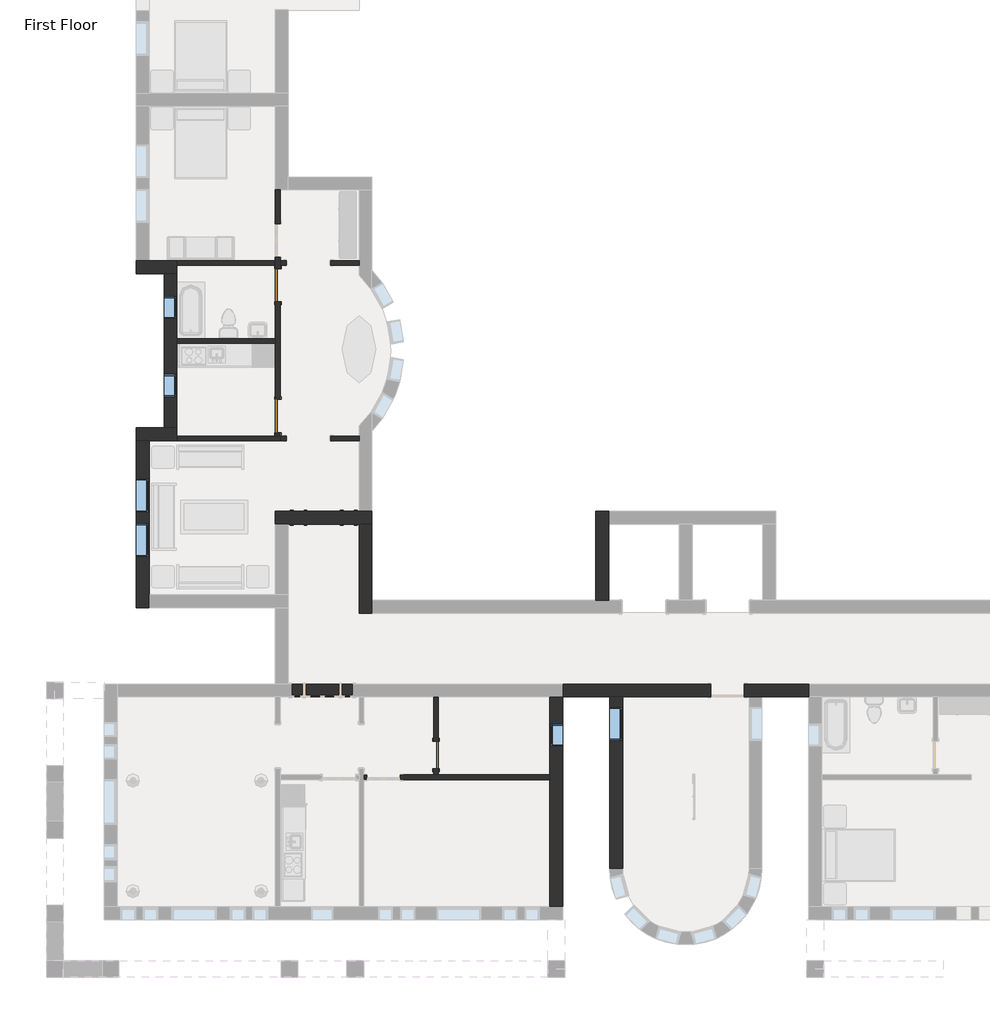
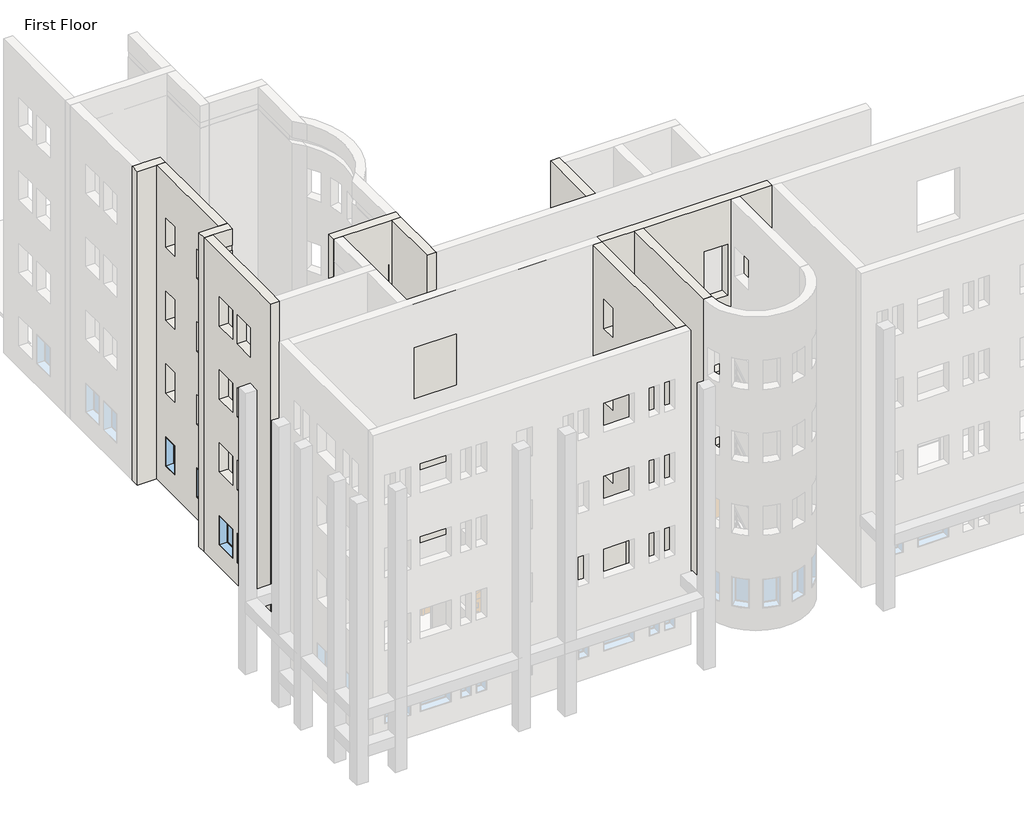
# One storey, part 4 of 24: 19 walls, 6 windows, 4 doors.
"""IFC4 building model written with IfcOpenShell, lengths in millimetres."""

from ifc_helpers import new_model, si_unit, frame, origin, origin_with_axes, place, context, project, spatial, polyline, outline, extrude, faceted_brep, transform, mapped, element, save
from components import door_4d6c7550, door_a1797ceb, door_a3eb833a, door_ffdb1193, window_60baf983, window_ed80354a, window_0e2fc6ce

model = new_model("IFC4")

# Units and contexts
model_context = context("Model", 3, world=origin())
ifc_project = project(units=[si_unit("LENGTHUNIT", "METRE", prefix="MILLI")], contexts=[model_context])

# Site, building, storey
site = spatial("IfcSite", under=ifc_project)
building = spatial("IfcBuilding", under=site)
storey = spatial("IfcBuildingStorey", under=building, Name="First Floor", Elevation=0.0)

# Doors
placement = place(None, origin())
door_shape = door_4d6c7550(model_context)
element("IfcDoor", 1, ObjectType="Single-Flush : 30\" x 84\"", at=placement, inside=storey, context=model_context, shape_type="MappedRepresentation", body=[
    mapped(door_shape, transform((-21764.5964563, -29722.2808133, 0.0), x_axis=(0.0, -1.0, 0.0), y_axis=(1.0, 0.0, 0.0), z_axis=(0.0, 0.0, 1.0))),
])
door_2_shape = door_a1797ceb(model_context)
element("IfcDoor", 2, ObjectType="Single-Flush : 36\" x 84\"", at=placement, inside=storey, context=model_context, shape_type="MappedRepresentation", body=[
    mapped(door_2_shape, transform((-26096.8839563, -16873.0558133, 0.0), x_axis=(0.0, 1.0, 0.0), y_axis=(-1.0, 0.0, 0.0), z_axis=(0.0, 0.0, 1.0))),
])
door_3_shape = door_a3eb833a(model_context)
element("IfcDoor", 3, ObjectType="Single-Flush : 36\" x 84\"", at=placement, inside=storey, context=model_context, shape_type="MappedRepresentation", body=[
    mapped(door_3_shape, transform((-26096.8839563, -20451.2808133, 0.0), x_axis=(0.0, -1.0, 0.0), y_axis=(1.0, 0.0, 0.0), z_axis=(0.0, 0.0, 1.0))),
])
door_4_shape = door_ffdb1193(model_context)
element("IfcDoor", 4, ObjectType="Single-Raised Panel with Sidelights : 36\" x 84\"", at=placement, inside=storey, context=model_context, shape_type="MappedRepresentation", body=[
    mapped(door_4_shape, transform((-24841.1714563, -23234.1683133, 0.0), x_axis=(1.0, 0.0, 0.0), y_axis=(0.0, 1.0, 0.0), z_axis=(0.0, 0.0, 1.0))),
])

# Walls
element("IfcWall", 5, ObjectType="Exterior - Brick on Mtl. Stud", at=placement, inside=storey, context=model_context, shape_type="Brep", body=[
    faceted_brep([(-17044.9589563, -25496.3558133, 0.0), (-17044.9589563, -23410.3808133, 0.0), (-17044.9589563, -23057.9558133, 0.0), (-17044.9589563, -23057.9558133, 13106.4), (-17044.9589563, -23410.3808133, 13106.4), (-17044.9589563, -25496.3558133, 13106.4), (-17397.3839563, -25496.3558133, 0.0), (-17397.3839563, -25496.3558133, 13106.4), (-17397.3839563, -23057.9558133, 13106.4), (-17397.3839563, -23057.9558133, 0.0)], [[[0, 1, 2, 3, 4, 5]], [[6, 7, 8, 9]], [[2, 1, 0, 6, 9]], [[5, 4, 3, 8, 7]], [[3, 2, 9, 8]], [[0, 5, 7, 6]]]),
])
element("IfcWall", 6, ObjectType="Exterior - Brick on Mtl. Stud", at=placement, inside=storey, context=model_context, shape_type="SweptSolid", body=[
    extrude(outline(polyline([(-28134.7808133, 0.0), (-32835.3683133, 0.0), (-32835.3683133, 13106.4), (-28134.7808133, 13106.4), (-28134.7808133, 0.0)]), holes=[polyline([(-28415.7683133, 2133.6), (-29330.1683133, 2133.6), (-29330.1683133, 914.4), (-28415.7683133, 914.4), (-28415.7683133, 2133.6)]), polyline([(-28415.7683133, 11277.6), (-29330.1683133, 11277.6), (-29330.1683133, 10058.4), (-28415.7683133, 10058.4), (-28415.7683133, 11277.6)]), polyline([(-28415.7683133, 5181.6), (-29330.1683133, 5181.6), (-29330.1683133, 3962.4), (-28415.7683133, 3962.4), (-28415.7683133, 5181.6)]), polyline([(-28415.7683133, 8229.6), (-29330.1683133, 8229.6), (-29330.1683133, 7010.4), (-28415.7683133, 7010.4), (-28415.7683133, 8229.6)])]), frame((-17016.3839563, 0.0, 0.0), z_axis=(1.0, 0.0, 0.0), x_axis=(0.0, 1.0, 0.0)), (0.0, 0.0, 1.0), 352.425),
])
element("IfcWall", 7, ObjectType="Exterior - Brick on Mtl. Stud", at=placement, inside=storey, context=model_context, shape_type="Brep", body=[
    faceted_brep([(-26160.3839563, -23410.3808133, 0.0), (-25807.9589563, -23410.3808133, 0.0), (-23874.3839563, -23410.3808133, 0.0), (-23521.9589563, -23410.3808133, 0.0), (-23521.9589563, -23410.3808133, 13106.4), (-23874.3839563, -23410.3808133, 13106.4), (-25807.9589563, -23410.3808133, 13106.4), (-26160.3839563, -23410.3808133, 13106.4), (-26160.3839563, -23410.3808133, 12420.6), (-26160.3839563, -23410.3808133, 12192.0), (-26160.3839563, -23057.9558133, 0.0), (-26160.3839563, -23057.9558133, 13106.4), (-23874.3839563, -23057.9558133, 13106.4), (-23521.9589563, -23057.9558133, 13106.4), (-23521.9589563, -23057.9558133, 0.0), (-23874.3839563, -23057.9558133, 0.0)], [[[0, 1, 2, 3, 4, 5, 6, 7, 8, 9]], [[10, 11, 12, 13, 14, 15]], [[3, 2, 1, 0, 10, 15, 14]], [[7, 6, 5, 4, 13, 12, 11]], [[4, 3, 14, 13]], [[0, 9, 8, 7, 11, 10]]]),
])
element("IfcWall", 8, ObjectType="Exterior - Brick on Mtl. Stud", at=placement, inside=storey, context=model_context, shape_type="Brep", body=[
    faceted_brep([(-23521.9589563, -25848.7808133, 0.0), (-23521.9589563, -25496.3558133, 0.0), (-23521.9589563, -23410.3808133, 0.0), (-23521.9589563, -23410.3808133, 13106.4), (-23521.9589563, -25496.3558133, 13106.4), (-23521.9589563, -25848.7808133, 13106.4), (-23874.3839563, -25848.7808133, 0.0), (-23874.3839563, -25848.7808133, 13106.4), (-23874.3839563, -23410.3808133, 13106.4), (-23874.3839563, -23410.3808133, 0.0)], [[[0, 1, 2, 3, 4, 5]], [[6, 7, 8, 9]], [[2, 1, 0, 6, 9]], [[5, 4, 3, 8, 7]], [[0, 5, 7, 6]], [[3, 2, 9, 8]]]),
])
element("IfcWall", 9, ObjectType="Exterior - Brick on Mtl. Stud", at=placement, inside=storey, context=model_context, shape_type="Brep", body=[
    faceted_brep([(-11571.2589563, -27782.3558133, 0.0), (-13334.9714563, -27782.3558133, 0.0), (-13334.9714563, -27782.3558133, 2133.6), (-14249.3714563, -27782.3558133, 2133.6), (-14249.3714563, -27782.3558133, 0.0), (-25807.9589563, -27782.3558133, 0.0), (-25807.9589563, -27782.3558133, 13106.4), (-11571.2589563, -27782.3558133, 13106.4), (-14249.3714563, -27782.3558133, 6096.0), (-13334.9714563, -27782.3558133, 6096.0), (-13334.9714563, -27782.3558133, 8229.6), (-14249.3714563, -27782.3558133, 8229.6), (-14249.3714563, -27782.3558133, 3048.0), (-13334.9714563, -27782.3558133, 3048.0), (-13334.9714563, -27782.3558133, 5181.6), (-14249.3714563, -27782.3558133, 5181.6), (-14249.3714563, -27782.3558133, 9144.0), (-13334.9714563, -27782.3558133, 9144.0), (-13334.9714563, -27782.3558133, 11277.6), (-14249.3714563, -27782.3558133, 11277.6), (-13334.9714563, -28134.7808133, 2133.6), (-13334.9714563, -28134.7808133, 0.0), (-13206.3839563, -28134.7808133, 0.0), (-12853.9589563, -28134.7808133, 0.0), (-11571.2589563, -28134.7808133, 0.0), (-11571.2589563, -28134.7808133, 13106.4), (-12853.9589563, -28134.7808133, 13106.4), (-13206.3839563, -28134.7808133, 13106.4), (-16663.9589563, -28134.7808133, 13106.4), (-17016.3839563, -28134.7808133, 13106.4), (-18300.6714563, -28134.7808133, 13106.4), (-18653.0964563, -28134.7808133, 13106.4), (-25807.9589563, -28134.7808133, 13106.4), (-25807.9589563, -28134.7808133, 0.0), (-23874.3839563, -28134.7808133, 0.0), (-23747.3839563, -28134.7808133, 0.0), (-21828.0964563, -28134.7808133, 0.0), (-21701.0964563, -28134.7808133, 0.0), (-18653.0964563, -28134.7808133, 0.0), (-18300.6714563, -28134.7808133, 0.0), (-17016.3839563, -28134.7808133, 0.0), (-16663.9589563, -28134.7808133, 0.0), (-14249.3714563, -28134.7808133, 0.0), (-14249.3714563, -28134.7808133, 2133.6), (-14249.3714563, -28134.7808133, 6096.0), (-14249.3714563, -28134.7808133, 8229.6), (-13334.9714563, -28134.7808133, 8229.6), (-13334.9714563, -28134.7808133, 6096.0), (-14249.3714563, -28134.7808133, 3048.0), (-14249.3714563, -28134.7808133, 5181.6), (-13334.9714563, -28134.7808133, 5181.6), (-13334.9714563, -28134.7808133, 3048.0), (-14249.3714563, -28134.7808133, 9144.0), (-14249.3714563, -28134.7808133, 11277.6), (-13334.9714563, -28134.7808133, 11277.6), (-13334.9714563, -28134.7808133, 9144.0)], [[[0, 1, 2, 3, 4, 5, 6, 7], [8, 9, 10, 11], [12, 13, 14, 15], [16, 17, 18, 19]], [[20, 21, 22, 23, 24, 25, 26, 27, 28, 29, 30, 31, 32, 33, 34, 35, 36, 37, 38, 39, 40, 41, 42, 43], [44, 45, 46, 47], [48, 49, 50, 51], [52, 53, 54, 55]], [[24, 23, 22, 21, 1, 0]], [[42, 41, 40, 39, 38, 37, 36, 35, 34, 33, 5, 4]], [[7, 6, 32, 31, 30, 29, 28, 27, 26, 25]], [[0, 7, 25, 24]], [[6, 5, 33, 32]], [[2, 1, 21, 20]], [[3, 2, 20, 43]], [[4, 3, 43, 42]], [[9, 8, 44, 47]], [[10, 9, 47, 46]], [[11, 10, 46, 45]], [[8, 11, 45, 44]], [[13, 12, 48, 51]], [[14, 13, 51, 50]], [[15, 14, 50, 49]], [[12, 15, 49, 48]], [[17, 16, 52, 55]], [[18, 17, 55, 54]], [[19, 18, 54, 53]], [[16, 19, 53, 52]]]),
])
element("IfcWall", 10, ObjectType="Exterior - Brick on Mtl. Stud", at=placement, inside=storey, context=model_context, shape_type="Brep", body=[
    faceted_brep([(-18653.0964563, -28134.7808133, 0.0), (-18653.0964563, -30268.3808133, 0.0), (-18653.0964563, -30395.3808133, 0.0), (-18653.0964563, -33878.3558133, 0.0), (-18653.0964563, -33878.3558133, 13106.4), (-18653.0964563, -28134.7808133, 13106.4), (-18653.0964563, -28872.9683133, 2133.6), (-18653.0964563, -29482.5683133, 2133.6), (-18653.0964563, -29482.5683133, 914.4), (-18653.0964563, -28872.9683133, 914.4), (-18653.0964563, -28872.9683133, 11277.6), (-18653.0964563, -29482.5683133, 11277.6), (-18653.0964563, -29482.5683133, 10058.4), (-18653.0964563, -28872.9683133, 10058.4), (-18653.0964563, -28872.9683133, 5181.6), (-18653.0964563, -29482.5683133, 5181.6), (-18653.0964563, -29482.5683133, 3962.4), (-18653.0964563, -28872.9683133, 3962.4), (-18653.0964563, -28872.9683133, 8229.6), (-18653.0964563, -29482.5683133, 8229.6), (-18653.0964563, -29482.5683133, 7010.4), (-18653.0964563, -28872.9683133, 7010.4), (-18300.6714563, -28134.7808133, 0.0), (-18300.6714563, -28134.7808133, 13106.4), (-18300.6714563, -33878.3558133, 13106.4), (-18300.6714563, -33878.3558133, 0.0), (-18300.6714563, -28872.9683133, 2133.6), (-18300.6714563, -28872.9683133, 914.4), (-18300.6714563, -29482.5683133, 914.4), (-18300.6714563, -29482.5683133, 2133.6), (-18300.6714563, -28872.9683133, 11277.6), (-18300.6714563, -28872.9683133, 10058.4), (-18300.6714563, -29482.5683133, 10058.4), (-18300.6714563, -29482.5683133, 11277.6), (-18300.6714563, -28872.9683133, 5181.6), (-18300.6714563, -28872.9683133, 3962.4), (-18300.6714563, -29482.5683133, 3962.4), (-18300.6714563, -29482.5683133, 5181.6), (-18300.6714563, -28872.9683133, 8229.6), (-18300.6714563, -28872.9683133, 7010.4), (-18300.6714563, -29482.5683133, 7010.4), (-18300.6714563, -29482.5683133, 8229.6), (-18487.9964563, -28134.7808133, 0.0), (-18487.9964563, -33878.3558133, 0.0)], [[[0, 1, 2, 3, 4, 5], [6, 7, 8, 9], [10, 11, 12, 13], [14, 15, 16, 17], [18, 19, 20, 21]], [[22, 23, 24, 25], [26, 27, 28, 29], [30, 31, 32, 33], [34, 35, 36, 37], [38, 39, 40, 41]], [[5, 4, 24, 23]], [[0, 5, 23, 22, 42]], [[4, 3, 43, 25, 24]], [[42, 22, 25, 43]], [[3, 2, 1, 0, 42, 43]], [[27, 26, 6, 9]], [[28, 27, 9, 8]], [[29, 28, 8, 7]], [[26, 29, 7, 6]], [[31, 30, 10, 13]], [[32, 31, 13, 12]], [[33, 32, 12, 11]], [[30, 33, 11, 10]], [[35, 34, 14, 17]], [[36, 35, 17, 16]], [[37, 36, 16, 15]], [[34, 37, 15, 14]], [[39, 38, 18, 21]], [[40, 39, 21, 20]], [[41, 40, 20, 19]], [[38, 41, 19, 18]]]),
])
element("IfcWall", 11, ObjectType="Exterior - Brick on Mtl. Stud", at=placement, inside=storey, context=model_context, shape_type="Brep", body=[
    faceted_brep([(-23874.3839563, -23410.3808133, 13106.4), (-25807.9589563, -23410.3808133, 13106.4), (-25807.9589563, -23410.3808133, 0.0), (-25679.3714563, -23410.3808133, 0.0), (-25679.3714563, -23410.3808133, 2133.6), (-24002.9714563, -23410.3808133, 2133.6), (-24002.9714563, -23410.3808133, 0.0), (-23874.3839563, -23410.3808133, 0.0), (-24002.9714563, -23410.3808133, 9144.0), (-25679.3714563, -23410.3808133, 9144.0), (-25679.3714563, -23410.3808133, 11277.6), (-24002.9714563, -23410.3808133, 11277.6), (-24002.9714563, -23410.3808133, 3048.0), (-25679.3714563, -23410.3808133, 3048.0), (-25679.3714563, -23410.3808133, 5181.6), (-24002.9714563, -23410.3808133, 5181.6), (-24002.9714563, -23410.3808133, 6096.0), (-25679.3714563, -23410.3808133, 6096.0), (-25679.3714563, -23410.3808133, 8229.6), (-24002.9714563, -23410.3808133, 8229.6), (-25807.9589563, -23057.9558133, 13106.4), (-23874.3839563, -23057.9558133, 13106.4), (-23874.3839563, -23057.9558133, 12420.6), (-25807.9589563, -23057.9558133, 12420.6), (-24002.9714563, -23057.9558133, 0.0), (-24002.9714563, -23057.9558133, 2133.6), (-25679.3714563, -23057.9558133, 2133.6), (-25679.3714563, -23057.9558133, 0.0), (-25807.9589563, -23057.9558133, 0.0), (-25807.9589563, -23057.9558133, 12192.0), (-23874.3839563, -23057.9558133, 12192.0), (-23874.3839563, -23057.9558133, 0.0), (-25679.3714563, -23057.9558133, 9144.0), (-24002.9714563, -23057.9558133, 9144.0), (-24002.9714563, -23057.9558133, 11277.6), (-25679.3714563, -23057.9558133, 11277.6), (-25679.3714563, -23057.9558133, 3048.0), (-24002.9714563, -23057.9558133, 3048.0), (-24002.9714563, -23057.9558133, 5181.6), (-25679.3714563, -23057.9558133, 5181.6), (-25679.3714563, -23057.9558133, 6096.0), (-24002.9714563, -23057.9558133, 6096.0), (-24002.9714563, -23057.9558133, 8229.6), (-25679.3714563, -23057.9558133, 8229.6), (-23874.3839563, -23070.6558133, 12192.0), (-23874.3839563, -23070.6558133, 12420.6), (-25807.9589563, -23070.6558133, 12420.6), (-25807.9589563, -23070.6558133, 12192.0)], [[[0, 1, 2, 3, 4, 5, 6, 7], [8, 9, 10, 11], [12, 13, 14, 15], [16, 17, 18, 19]], [[20, 21, 22, 23]], [[24, 25, 26, 27, 28, 29, 30, 31], [32, 33, 34, 35], [36, 37, 38, 39], [40, 41, 42, 43]], [[31, 7, 6, 24]], [[2, 28, 27, 3]], [[1, 0, 21, 20]], [[0, 7, 31, 30, 44, 45, 22, 21]], [[2, 1, 20, 23, 46, 47, 29, 28]], [[25, 24, 6, 5]], [[26, 25, 5, 4]], [[27, 26, 4, 3]], [[33, 32, 9, 8]], [[34, 33, 8, 11]], [[35, 34, 11, 10]], [[32, 35, 10, 9]], [[37, 36, 13, 12]], [[38, 37, 12, 15]], [[39, 38, 15, 14]], [[36, 39, 14, 13]], [[41, 40, 17, 16]], [[42, 41, 16, 19]], [[43, 42, 19, 18]], [[40, 43, 18, 17]], [[47, 44, 30, 29]], [[45, 46, 23, 22]], [[44, 47, 46, 45]]]),
])
element("IfcWall", 12, ObjectType="Exterior - Brick on Mtl. Stud", at=placement, inside=storey, context=model_context, shape_type="Brep", body=[
    faceted_brep([(-29970.3839563, -16552.3808133, 0.0), (-29208.3839563, -16552.3808133, 0.0), (-28855.9589563, -16552.3808133, 0.0), (-28855.9589563, -16552.3808133, 12192.0), (-28868.6589563, -16552.3808133, 12192.0), (-28868.6589563, -16552.3808133, 12420.6), (-28855.9589563, -16552.3808133, 12420.6), (-28855.9589563, -16552.3808133, 13106.4), (-29208.3839563, -16552.3808133, 13106.4), (-29970.3839563, -16552.3808133, 13106.4), (-28855.9589563, -16199.9558133, 0.0), (-29617.9589563, -16199.9558133, 0.0), (-29970.3839563, -16199.9558133, 0.0), (-29970.3839563, -16199.9558133, 13106.4), (-29617.9589563, -16199.9558133, 13106.4), (-28855.9589563, -16199.9558133, 13106.4), (-28855.9589563, -16199.9558133, 12420.6), (-29617.9589563, -16199.9558133, 12420.6), (-29630.6589563, -16199.9558133, 12420.6), (-29630.6589563, -16199.9558133, 12192.0), (-29617.9589563, -16199.9558133, 12192.0), (-28855.9589563, -16199.9558133, 12192.0), (-28855.9589563, -16199.9558133, 9144.0), (-28855.9589563, -16199.9558133, 6096.0), (-28855.9589563, -16199.9558133, 3048.0), (-28855.9589563, -16326.9558133, 0.0), (-28855.9589563, -16326.9558133, 12192.0), (-29630.6589563, -16212.6558133, 12192.0), (-28868.6589563, -16212.6558133, 12192.0), (-28868.6589563, -16212.6558133, 12420.6), (-29630.6589563, -16212.6558133, 12420.6)], [[[0, 1, 2, 3, 4, 5, 6, 7, 8, 9]], [[10, 11, 12, 13, 14, 15, 16, 17, 18, 19, 20, 21, 22, 23, 24]], [[2, 1, 0, 12, 11, 10, 25]], [[9, 8, 7, 15, 14, 13]], [[0, 9, 13, 12]], [[2, 25, 10, 24, 23, 22, 21, 26, 3]], [[15, 7, 6, 16]], [[27, 28, 4, 3, 26, 21, 20, 19]], [[29, 30, 18, 17, 16, 6, 5]], [[30, 27, 19, 18]], [[28, 27, 30, 29]], [[28, 29, 5, 4]]]),
])
element("IfcWall", 13, ObjectType="Exterior - Brick on Mtl. Stud", at=placement, inside=storey, context=model_context, shape_type="Brep", body=[
    faceted_brep([(-29208.3839563, -16552.3808133, 0.0), (-29208.3839563, -20771.9558133, 0.0), (-29208.3839563, -20771.9558133, 13106.4), (-29208.3839563, -16552.3808133, 13106.4), (-29208.3839563, -19311.4558133, 914.4), (-29208.3839563, -19311.4558133, 2133.6), (-29208.3839563, -19921.0558133, 2133.6), (-29208.3839563, -19921.0558133, 914.4), (-29208.3839563, -17177.8558133, 914.4), (-29208.3839563, -17177.8558133, 2133.6), (-29208.3839563, -17787.4558133, 2133.6), (-29208.3839563, -17787.4558133, 914.4), (-29208.3839563, -19311.4558133, 10058.4), (-29208.3839563, -19311.4558133, 11277.6), (-29208.3839563, -19921.0558133, 11277.6), (-29208.3839563, -19921.0558133, 10058.4), (-29208.3839563, -17177.8558133, 10058.4), (-29208.3839563, -17177.8558133, 11277.6), (-29208.3839563, -17787.4558133, 11277.6), (-29208.3839563, -17787.4558133, 10058.4), (-29208.3839563, -19311.4558133, 3962.4), (-29208.3839563, -19311.4558133, 5181.6), (-29208.3839563, -19921.0558133, 5181.6), (-29208.3839563, -19921.0558133, 3962.4), (-29208.3839563, -17177.8558133, 3962.4), (-29208.3839563, -17177.8558133, 5181.6), (-29208.3839563, -17787.4558133, 5181.6), (-29208.3839563, -17787.4558133, 3962.4), (-29208.3839563, -19311.4558133, 7010.4), (-29208.3839563, -19311.4558133, 8229.6), (-29208.3839563, -19921.0558133, 8229.6), (-29208.3839563, -19921.0558133, 7010.4), (-29208.3839563, -17177.8558133, 7010.4), (-29208.3839563, -17177.8558133, 8229.6), (-29208.3839563, -17787.4558133, 8229.6), (-29208.3839563, -17787.4558133, 7010.4), (-28855.9589563, -20771.9558133, 0.0), (-28855.9589563, -18460.5558133, 0.0), (-28855.9589563, -18333.5558133, 0.0), (-28855.9589563, -16552.3808133, 0.0), (-28855.9589563, -16552.3808133, 12192.0), (-28855.9589563, -18333.5558133, 12192.0), (-28855.9589563, -18460.5558133, 12192.0), (-28855.9589563, -20771.9558133, 12192.0), (-28855.9589563, -19311.4558133, 2133.6), (-28855.9589563, -19311.4558133, 914.4), (-28855.9589563, -19921.0558133, 914.4), (-28855.9589563, -19921.0558133, 2133.6), (-28855.9589563, -17177.8558133, 2133.6), (-28855.9589563, -17177.8558133, 914.4), (-28855.9589563, -17787.4558133, 914.4), (-28855.9589563, -17787.4558133, 2133.6), (-28855.9589563, -19311.4558133, 11277.6), (-28855.9589563, -19311.4558133, 10058.4), (-28855.9589563, -19921.0558133, 10058.4), (-28855.9589563, -19921.0558133, 11277.6), (-28855.9589563, -17177.8558133, 11277.6), (-28855.9589563, -17177.8558133, 10058.4), (-28855.9589563, -17787.4558133, 10058.4), (-28855.9589563, -17787.4558133, 11277.6), (-28855.9589563, -19311.4558133, 5181.6), (-28855.9589563, -19311.4558133, 3962.4), (-28855.9589563, -19921.0558133, 3962.4), (-28855.9589563, -19921.0558133, 5181.6), (-28855.9589563, -17177.8558133, 5181.6), (-28855.9589563, -17177.8558133, 3962.4), (-28855.9589563, -17787.4558133, 3962.4), (-28855.9589563, -17787.4558133, 5181.6), (-28855.9589563, -19311.4558133, 8229.6), (-28855.9589563, -19311.4558133, 7010.4), (-28855.9589563, -19921.0558133, 7010.4), (-28855.9589563, -19921.0558133, 8229.6), (-28855.9589563, -17177.8558133, 8229.6), (-28855.9589563, -17177.8558133, 7010.4), (-28855.9589563, -17787.4558133, 7010.4), (-28855.9589563, -17787.4558133, 8229.6), (-28855.9589563, -16552.3808133, 13106.4), (-28855.9589563, -20771.9558133, 13106.4), (-28855.9589563, -20771.9558133, 12420.6), (-28855.9589563, -16552.3808133, 12420.6), (-28868.6589563, -16552.3808133, 12420.6), (-28868.6589563, -16552.3808133, 12192.0), (-28868.6589563, -20771.9558133, 12192.0), (-28868.6589563, -20771.9558133, 12420.6)], [[[0, 1, 2, 3], [4, 5, 6, 7], [8, 9, 10, 11], [12, 13, 14, 15], [16, 17, 18, 19], [20, 21, 22, 23], [24, 25, 26, 27], [28, 29, 30, 31], [32, 33, 34, 35]], [[36, 37, 38, 39, 40, 41, 42, 43], [44, 45, 46, 47], [48, 49, 50, 51], [52, 53, 54, 55], [56, 57, 58, 59], [60, 61, 62, 63], [64, 65, 66, 67], [68, 69, 70, 71], [72, 73, 74, 75]], [[76, 77, 78, 79]], [[1, 0, 39, 38, 37, 36]], [[3, 2, 77, 76]], [[0, 3, 76, 79, 80, 81, 40, 39]], [[2, 1, 36, 43, 82, 83, 78, 77]], [[45, 44, 5, 4]], [[46, 45, 4, 7]], [[47, 46, 7, 6]], [[44, 47, 6, 5]], [[49, 48, 9, 8]], [[50, 49, 8, 11]], [[51, 50, 11, 10]], [[48, 51, 10, 9]], [[53, 52, 13, 12]], [[54, 53, 12, 15]], [[55, 54, 15, 14]], [[52, 55, 14, 13]], [[57, 56, 17, 16]], [[58, 57, 16, 19]], [[59, 58, 19, 18]], [[56, 59, 18, 17]], [[61, 60, 21, 20]], [[62, 61, 20, 23]], [[63, 62, 23, 22]], [[60, 63, 22, 21]], [[65, 64, 25, 24]], [[66, 65, 24, 27]], [[67, 66, 27, 26]], [[64, 67, 26, 25]], [[69, 68, 29, 28]], [[70, 69, 28, 31]], [[71, 70, 31, 30]], [[68, 71, 30, 29]], [[73, 72, 33, 32]], [[74, 73, 32, 35]], [[75, 74, 35, 34]], [[72, 75, 34, 33]], [[81, 82, 43, 42, 41, 40]], [[83, 80, 79, 78]], [[82, 81, 80, 83]]]),
])
element("IfcWall", 14, ObjectType="Exterior - Brick on Mtl. Stud", at=placement, inside=storey, context=model_context, shape_type="Brep", body=[
    faceted_brep([(-28855.9589563, -20771.9558133, 0.0), (-29208.3839563, -20771.9558133, 0.0), (-29970.3839563, -20771.9558133, 0.0), (-29970.3839563, -20771.9558133, 13106.4), (-29208.3839563, -20771.9558133, 13106.4), (-28855.9589563, -20771.9558133, 13106.4), (-28855.9589563, -20771.9558133, 12420.6), (-28868.6589563, -20771.9558133, 12420.6), (-28868.6589563, -20771.9558133, 12192.0), (-28855.9589563, -20771.9558133, 12192.0), (-29970.3839563, -21124.3808133, 0.0), (-29617.9589563, -21124.3808133, 0.0), (-28855.9589563, -21124.3808133, 0.0), (-28855.9589563, -21124.3808133, 3048.0), (-28855.9589563, -21124.3808133, 6096.0), (-28855.9589563, -21124.3808133, 9144.0), (-28855.9589563, -21124.3808133, 12192.0), (-29617.9589563, -21124.3808133, 12192.0), (-29630.6589563, -21124.3808133, 12192.0), (-29630.6589563, -21124.3808133, 12420.6), (-29617.9589563, -21124.3808133, 12420.6), (-28855.9589563, -21124.3808133, 12420.6), (-28855.9589563, -21124.3808133, 13106.4), (-29617.9589563, -21124.3808133, 13106.4), (-29970.3839563, -21124.3808133, 13106.4), (-28855.9589563, -20997.3808133, 0.0), (-28855.9589563, -20997.3808133, 12192.0), (-28868.6589563, -21111.6808133, 12192.0), (-29630.6589563, -21111.6808133, 12192.0), (-29630.6589563, -21111.6808133, 12420.6), (-28868.6589563, -21111.6808133, 12420.6)], [[[0, 1, 2, 3, 4, 5, 6, 7, 8, 9]], [[10, 11, 12, 13, 14, 15, 16, 17, 18, 19, 20, 21, 22, 23, 24]], [[2, 1, 0, 25, 12, 11, 10]], [[5, 4, 3, 24, 23, 22]], [[12, 25, 0, 9, 26, 16, 15, 14, 13]], [[5, 22, 21, 6]], [[3, 2, 10, 24]], [[27, 28, 18, 17, 16, 26, 9, 8]], [[29, 30, 7, 6, 21, 20, 19]], [[30, 27, 8, 7]], [[28, 27, 30, 29]], [[28, 29, 19, 18]]]),
])
element("IfcWall", 15, ObjectType="Exterior - Brick on Mtl. Stud", at=placement, inside=storey, context=model_context, shape_type="Brep", body=[
    faceted_brep([(-29970.3839563, -21124.3808133, 0.0), (-29970.3839563, -25696.3808133, 0.0), (-29970.3839563, -25696.3808133, 13106.4), (-29970.3839563, -21124.3808133, 13106.4), (-29970.3839563, -23386.5683133, 914.4), (-29970.3839563, -23386.5683133, 2133.6), (-29970.3839563, -24300.9683133, 2133.6), (-29970.3839563, -24300.9683133, 914.4), (-29970.3839563, -22167.3683133, 914.4), (-29970.3839563, -22167.3683133, 2133.6), (-29970.3839563, -23081.7683133, 2133.6), (-29970.3839563, -23081.7683133, 914.4), (-29970.3839563, -23386.5683133, 10058.4), (-29970.3839563, -23386.5683133, 11277.6), (-29970.3839563, -24300.9683133, 11277.6), (-29970.3839563, -24300.9683133, 10058.4), (-29970.3839563, -22167.3683133, 10058.4), (-29970.3839563, -22167.3683133, 11277.6), (-29970.3839563, -23081.7683133, 11277.6), (-29970.3839563, -23081.7683133, 10058.4), (-29970.3839563, -23386.5683133, 3962.4), (-29970.3839563, -23386.5683133, 5181.6), (-29970.3839563, -24300.9683133, 5181.6), (-29970.3839563, -24300.9683133, 3962.4), (-29970.3839563, -22167.3683133, 3962.4), (-29970.3839563, -22167.3683133, 5181.6), (-29970.3839563, -23081.7683133, 5181.6), (-29970.3839563, -23081.7683133, 3962.4), (-29970.3839563, -23386.5683133, 7010.4), (-29970.3839563, -23386.5683133, 8229.6), (-29970.3839563, -24300.9683133, 8229.6), (-29970.3839563, -24300.9683133, 7010.4), (-29970.3839563, -22167.3683133, 7010.4), (-29970.3839563, -22167.3683133, 8229.6), (-29970.3839563, -23081.7683133, 8229.6), (-29970.3839563, -23081.7683133, 7010.4), (-29617.9589563, -25696.3808133, 0.0), (-29617.9589563, -25343.9558133, 0.0), (-29617.9589563, -21124.3808133, 0.0), (-29617.9589563, -21124.3808133, 12192.0), (-29617.9589563, -25343.9558133, 12192.0), (-29617.9589563, -25356.6558133, 12192.0), (-29617.9589563, -25356.6558133, 12420.6), (-29617.9589563, -25343.9558133, 12420.6), (-29617.9589563, -21124.3808133, 12420.6), (-29617.9589563, -21124.3808133, 13106.4), (-29617.9589563, -25343.9558133, 13106.4), (-29617.9589563, -25696.3808133, 13106.4), (-29617.9589563, -23386.5683133, 2133.6), (-29617.9589563, -23386.5683133, 914.4), (-29617.9589563, -24300.9683133, 914.4), (-29617.9589563, -24300.9683133, 2133.6), (-29617.9589563, -22167.3683133, 2133.6), (-29617.9589563, -22167.3683133, 914.4), (-29617.9589563, -23081.7683133, 914.4), (-29617.9589563, -23081.7683133, 2133.6), (-29617.9589563, -23386.5683133, 11277.6), (-29617.9589563, -23386.5683133, 10058.4), (-29617.9589563, -24300.9683133, 10058.4), (-29617.9589563, -24300.9683133, 11277.6), (-29617.9589563, -22167.3683133, 11277.6), (-29617.9589563, -22167.3683133, 10058.4), (-29617.9589563, -23081.7683133, 10058.4), (-29617.9589563, -23081.7683133, 11277.6), (-29617.9589563, -23386.5683133, 5181.6), (-29617.9589563, -23386.5683133, 3962.4), (-29617.9589563, -24300.9683133, 3962.4), (-29617.9589563, -24300.9683133, 5181.6), (-29617.9589563, -22167.3683133, 5181.6), (-29617.9589563, -22167.3683133, 3962.4), (-29617.9589563, -23081.7683133, 3962.4), (-29617.9589563, -23081.7683133, 5181.6), (-29617.9589563, -23386.5683133, 8229.6), (-29617.9589563, -23386.5683133, 7010.4), (-29617.9589563, -24300.9683133, 7010.4), (-29617.9589563, -24300.9683133, 8229.6), (-29617.9589563, -22167.3683133, 8229.6), (-29617.9589563, -22167.3683133, 7010.4), (-29617.9589563, -23081.7683133, 7010.4), (-29617.9589563, -23081.7683133, 8229.6), (-29630.6589563, -21124.3808133, 12420.6), (-29630.6589563, -21124.3808133, 12192.0), (-29630.6589563, -25356.6558133, 12192.0), (-29630.6589563, -25356.6558133, 12420.6)], [[[0, 1, 2, 3], [4, 5, 6, 7], [8, 9, 10, 11], [12, 13, 14, 15], [16, 17, 18, 19], [20, 21, 22, 23], [24, 25, 26, 27], [28, 29, 30, 31], [32, 33, 34, 35]], [[36, 37, 38, 39, 40, 41, 42, 43, 44, 45, 46, 47], [48, 49, 50, 51], [52, 53, 54, 55], [56, 57, 58, 59], [60, 61, 62, 63], [64, 65, 66, 67], [68, 69, 70, 71], [72, 73, 74, 75], [76, 77, 78, 79]], [[1, 0, 38, 37, 36]], [[3, 2, 47, 46, 45]], [[2, 1, 36, 47]], [[0, 3, 45, 44, 80, 81, 39, 38]], [[49, 48, 5, 4]], [[50, 49, 4, 7]], [[51, 50, 7, 6]], [[48, 51, 6, 5]], [[53, 52, 9, 8]], [[54, 53, 8, 11]], [[55, 54, 11, 10]], [[52, 55, 10, 9]], [[57, 56, 13, 12]], [[58, 57, 12, 15]], [[59, 58, 15, 14]], [[56, 59, 14, 13]], [[61, 60, 17, 16]], [[62, 61, 16, 19]], [[63, 62, 19, 18]], [[60, 63, 18, 17]], [[65, 64, 21, 20]], [[66, 65, 20, 23]], [[67, 66, 23, 22]], [[64, 67, 22, 21]], [[69, 68, 25, 24]], [[70, 69, 24, 27]], [[71, 70, 27, 26]], [[68, 71, 26, 25]], [[73, 72, 29, 28]], [[74, 73, 28, 31]], [[75, 74, 31, 30]], [[72, 75, 30, 29]], [[77, 76, 33, 32]], [[78, 77, 32, 35]], [[79, 78, 35, 34]], [[76, 79, 34, 33]], [[81, 82, 41, 40, 39]], [[42, 83, 80, 44, 43]], [[83, 82, 81, 80]], [[82, 83, 42, 41]]]),
])
element("IfcWall", 16, ObjectType="Interior - 5\" Partition (2-hr)", at=placement, inside=storey, context=model_context, shape_type="Brep", body=[
    faceted_brep([(-23658.4839563, -30268.3808133, 2133.6), (-23658.4839563, -30268.3808133, 0.0), (-23747.3839563, -30268.3808133, 0.0), (-23747.3839563, -30268.3808133, 3048.0), (-21828.0964563, -30268.3808133, 3048.0), (-21701.0964563, -30268.3808133, 3048.0), (-18653.0964563, -30268.3808133, 3048.0), (-18653.0964563, -30268.3808133, 0.0), (-21701.0964563, -30268.3808133, 0.0), (-21828.0964563, -30268.3808133, 0.0), (-22744.0839563, -30268.3808133, 0.0), (-22744.0839563, -30268.3808133, 2133.6), (-23747.3839563, -30395.3808133, 0.0), (-23658.4839563, -30395.3808133, 0.0), (-23658.4839563, -30395.3808133, 2133.6), (-22744.0839563, -30395.3808133, 2133.6), (-22744.0839563, -30395.3808133, 0.0), (-18653.0964563, -30395.3808133, 0.0), (-18653.0964563, -30395.3808133, 3048.0), (-23747.3839563, -30395.3808133, 3048.0)], [[[0, 1, 2, 3, 4, 5, 6, 7, 8, 9, 10, 11]], [[12, 13, 14, 15, 16, 17, 18, 19]], [[2, 1, 13, 12]], [[10, 9, 8, 7, 17, 16]], [[6, 5, 4, 3, 19, 18]], [[7, 6, 18, 17]], [[3, 2, 12, 19]], [[14, 13, 1, 0]], [[15, 14, 0, 11]], [[16, 15, 11, 10]]]),
])
element("IfcWall", 17, ObjectType="Interior - 5\" Partition (2-hr)", at=placement, inside=storey, context=model_context, shape_type="SweptSolid", body=[
    extrude(outline(polyline([(-30103.2808133, 2133.6), (-30103.2808133, 0.0), (-30268.3808133, 0.0), (-30268.3808133, 3048.0), (-28134.7808133, 3048.0), (-28134.7808133, 0.0), (-29341.2808133, 0.0), (-29341.2808133, 2133.6), (-30103.2808133, 2133.6)])), frame((-21828.0964563, 0.0, 0.0), z_axis=(1.0, 0.0, 0.0), x_axis=(0.0, 1.0, 0.0)), (0.0, 0.0, 1.0), 127.0),
])
element("IfcWall", 18, ObjectType="Interior - 5\" Partition (2-hr)", at=placement, inside=storey, context=model_context, shape_type="Brep", body=[
    faceted_brep([(-28855.9589563, -21124.3808133, 0.0), (-26033.3839563, -21124.3808133, 0.0), (-26033.3839563, -21124.3808133, 3048.0), (-28855.9589563, -21124.3808133, 3048.0), (-28855.9589563, -20997.3808133, 0.0), (-28855.9589563, -20997.3808133, 3048.0), (-26160.3839563, -20997.3808133, 3048.0), (-26033.3839563, -20997.3808133, 3048.0), (-26033.3839563, -20997.3808133, 0.0), (-26160.3839563, -20997.3808133, 0.0)], [[[0, 1, 2, 3]], [[4, 5, 6, 7, 8, 9]], [[1, 0, 4, 9, 8]], [[3, 2, 7, 6, 5]], [[2, 1, 8, 7]], [[0, 3, 5, 4]]]),
])
element("IfcWall", 19, ObjectType="Interior - 5\" Partition (2-hr)", at=placement, inside=storey, context=model_context, shape_type="Brep", body=[
    faceted_brep([(-26160.3839563, -16111.0558133, 2133.6), (-26160.3839563, -16111.0558133, 0.0), (-26160.3839563, -16199.9558133, 0.0), (-26160.3839563, -16326.9558133, 0.0), (-26160.3839563, -16415.8558133, 0.0), (-26160.3839563, -16415.8558133, 2133.6), (-26160.3839563, -17330.2558133, 2133.6), (-26160.3839563, -17330.2558133, 0.0), (-26160.3839563, -18333.5558133, 0.0), (-26160.3839563, -18460.5558133, 0.0), (-26160.3839563, -19994.0808133, 0.0), (-26160.3839563, -19994.0808133, 2133.6), (-26160.3839563, -20908.4808133, 2133.6), (-26160.3839563, -20908.4808133, 0.0), (-26160.3839563, -20997.3808133, 0.0), (-26160.3839563, -20997.3808133, 3048.0), (-26160.3839563, -18460.5558133, 3048.0), (-26160.3839563, -18333.5558133, 3048.0), (-26160.3839563, -16326.9558133, 3048.0), (-26160.3839563, -16199.9558133, 3048.0), (-26160.3839563, -14266.3808133, 3048.0), (-26160.3839563, -14266.3808133, 0.0), (-26160.3839563, -15196.6558133, 0.0), (-26160.3839563, -15196.6558133, 2133.6), (-26033.3839563, -16415.8558133, 0.0), (-26033.3839563, -16326.9558133, 0.0), (-26033.3839563, -16199.9558133, 0.0), (-26033.3839563, -16111.0558133, 0.0), (-26033.3839563, -16111.0558133, 2133.6), (-26033.3839563, -15196.6558133, 2133.6), (-26033.3839563, -15196.6558133, 0.0), (-26033.3839563, -14266.3808133, 0.0), (-26033.3839563, -14266.3808133, 3048.0), (-26033.3839563, -16199.9558133, 3048.0), (-26033.3839563, -16326.9558133, 3048.0), (-26033.3839563, -20997.3808133, 3048.0), (-26033.3839563, -20997.3808133, 0.0), (-26033.3839563, -20908.4808133, 0.0), (-26033.3839563, -20908.4808133, 2133.6), (-26033.3839563, -19994.0808133, 2133.6), (-26033.3839563, -19994.0808133, 0.0), (-26033.3839563, -17330.2558133, 0.0), (-26033.3839563, -17330.2558133, 2133.6), (-26033.3839563, -16415.8558133, 2133.6)], [[[0, 1, 2, 3, 4, 5, 6, 7, 8, 9, 10, 11, 12, 13, 14, 15, 16, 17, 18, 19, 20, 21, 22, 23]], [[24, 25, 26, 27, 28, 29, 30, 31, 32, 33, 34, 35, 36, 37, 38, 39, 40, 41, 42, 43]], [[14, 13, 37, 36]], [[4, 3, 2, 1, 27, 26, 25, 24]], [[41, 40, 10, 9, 8, 7]], [[22, 21, 31, 30]], [[20, 19, 18, 17, 16, 15, 35, 34, 33, 32]], [[21, 20, 32, 31]], [[15, 14, 36, 35]], [[38, 37, 13, 12]], [[39, 38, 12, 11]], [[40, 39, 11, 10]], [[5, 4, 24, 43]], [[6, 5, 43, 42]], [[7, 6, 42, 41]], [[28, 27, 1, 0]], [[29, 28, 0, 23]], [[30, 29, 23, 22]]]),
])
element("IfcWall", 20, ObjectType="Interior - 5\" Partition (2-hr)", at=placement, inside=storey, context=model_context, shape_type="SweptSolid", body=[
    extrude(outline(polyline([(-26160.3839563, -16326.9558133), (-28855.9589563, -16326.9558133), (-28855.9589563, -16199.9558133), (-26160.3839563, -16199.9558133), (-26160.3839563, -16326.9558133)])), origin_with_axes(), (0.0, 0.0, 1.0), 3048.0),
])
element("IfcWall", 21, ObjectType="Interior - 5\" Partition (2-hr)", at=placement, inside=storey, context=model_context, shape_type="SweptSolid", body=[
    extrude(outline(polyline([(-28855.9589563, -18333.5558133), (-26160.3839563, -18333.5558133), (-26160.3839563, -18460.5558133), (-28855.9589563, -18460.5558133), (-28855.9589563, -18333.5558133)])), origin_with_axes(), (0.0, 0.0, 1.0), 3048.0),
])
element("IfcWall", 22, ObjectType="Interior - 5\" Partition (2-hr)", at=placement, inside=storey, context=model_context, shape_type="SweptSolid", body=[
    extrude(outline(polyline([(2133.6, -24649.0839563), (0.0, -24649.0839563), (0.0, -23874.3839563), (3048.0, -23874.3839563), (3048.0, -26033.3839563), (0.0, -26033.3839563), (0.0, -25868.2839563), (2133.6, -25868.2839563), (2133.6, -24649.0839563)])), frame((0.0, -16326.9558133, 0.0), z_axis=(0.0, 1.0, 0.0), x_axis=(0.0, 0.0, 1.0)), (0.0, 0.0, 1.0), 127.0),
])
element("IfcWall", 23, ObjectType="Interior - 5\" Partition (2-hr)", at=placement, inside=storey, context=model_context, shape_type="SweptSolid", body=[
    extrude(outline(polyline([(0.0, -26033.3839563), (0.0, -25868.2839563), (2133.6, -25868.2839563), (2133.6, -24649.0839563), (0.0, -24649.0839563), (0.0, -23874.3839563), (3048.0, -23874.3839563), (3048.0, -26033.3839563), (0.0, -26033.3839563)])), frame((0.0, -21124.3808133, 0.0), z_axis=(0.0, 1.0, 0.0), x_axis=(0.0, 0.0, 1.0)), (0.0, 0.0, 1.0), 127.0),
])

# Windows
window_shape = window_60baf983(model_context)
element("IfcWindow", 24, ObjectType="Fixed : 24\" x 48\"", at=placement, inside=storey, context=model_context, shape_type="MappedRepresentation", body=[
    mapped(window_shape, transform((-18476.8839563, -29139.6683133, 0.0), x_axis=(0.0, 1.0, 0.0), y_axis=(-1.0, 0.0, 0.0), z_axis=(0.0, 0.0, 1.0))),
])
window_2_shape = window_ed80354a(model_context)
element("IfcWindow", 25, ObjectType="Fixed : 24\" x 48\"", at=placement, inside=storey, context=model_context, shape_type="MappedRepresentation", body=[
    mapped(window_2_shape, transform((-29032.1714563, -19578.1558133, 0.0), x_axis=(0.0, 1.0, 0.0), y_axis=(-1.0, 0.0, 0.0), z_axis=(0.0, 0.0, 1.0))),
])
element("IfcWindow", 26, ObjectType="Fixed : 24\" x 48\"", at=placement, inside=storey, context=model_context, shape_type="MappedRepresentation", body=[
    mapped(window_2_shape, transform((-29032.1714563, -17444.5558133, 0.0), x_axis=(0.0, 1.0, 0.0), y_axis=(-1.0, 0.0, 0.0), z_axis=(0.0, 0.0, 1.0))),
])
window_3_shape = window_0e2fc6ce(model_context)
element("IfcWindow", 27, ObjectType="Fixed : 36\" x 48\"", at=placement, inside=storey, context=model_context, shape_type="MappedRepresentation", body=[
    mapped(window_3_shape, transform((-16840.1714563, -28834.8683133, 0.0), x_axis=(0.0, 1.0, 0.0), y_axis=(-1.0, 0.0, 0.0), z_axis=(0.0, 0.0, 1.0))),
])
element("IfcWindow", 28, ObjectType="Fixed : 36\" x 48\"", at=placement, inside=storey, context=model_context, shape_type="MappedRepresentation", body=[
    mapped(window_3_shape, transform((-29794.1714563, -23805.6683133, 0.0), x_axis=(0.0, 1.0, 0.0), y_axis=(-1.0, 0.0, 0.0), z_axis=(0.0, 0.0, 1.0))),
])
element("IfcWindow", 29, ObjectType="Fixed : 36\" x 48\"", at=placement, inside=storey, context=model_context, shape_type="MappedRepresentation", body=[
    mapped(window_3_shape, transform((-29794.1714563, -22586.4683133, 0.0), x_axis=(0.0, 1.0, 0.0), y_axis=(-1.0, 0.0, 0.0), z_axis=(0.0, 0.0, 1.0))),
])

save(model, "model.ifc")
